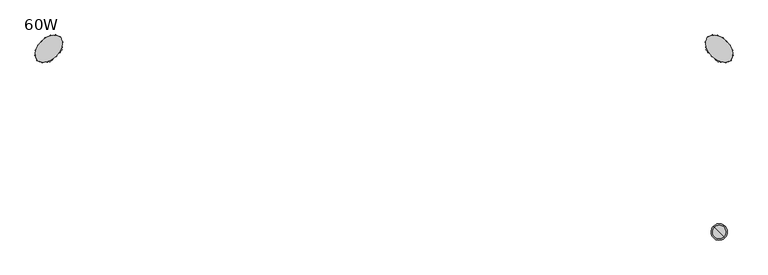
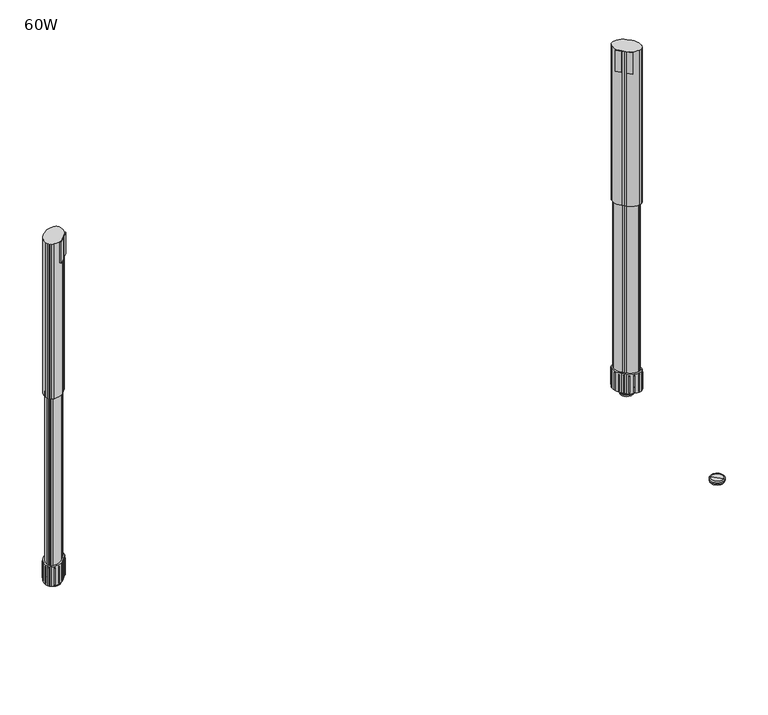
"""IFC4 building model written with IfcOpenShell, lengths in millimetres: furniture geometry, SmithSystem_AM_Table_Education_Interchange_Activity_20D : 60W."""

from ifc_helpers import new_model, si_unit, point, frame, frame_2d, origin, origin_with_axes, place, context, project, spatial, polyline, circle_curve, ellipse_curve, trimmed, segment, composite_curve, outline, extrude, source, transform, mapped, element, save
from ifc_brep_helpers import plane_surface, cylinder_surface, revolved_surface, advanced_brep


def furniture_60w_86c895c0(model_context):
    return source(origin(), model_context, "Body", "SolidModel", [
        advanced_brep(
        [(1482.7381508, 458.8668163, 4.0499223), (1461.8815501, 438.0102156, 4.0499223), (1472.3098504, 448.4385159, 4.0499223), (1484.534202, 460.6628675, 6.5899223), (1460.0854989, 436.2141644, 6.5899223), (1484.534202, 460.6628675, 10.1679691), (1460.0854989, 436.2141644, 10.1679691), (1482.7381508, 458.8668163, 12.7079691), (1461.8815501, 438.0102156, 12.7079691), (1472.3098504, 448.4385159, 12.7079691)],
        [
            (0, 1, circle_curve(frame((1472.3098504, 448.4385159, 4.0499223), z_axis=(0.0, 0.0, -1.0), x_axis=(-0.7071067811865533, -0.7071067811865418, 0.0)), 14.7478438)),
            (1, 2),
            (2, 0),
            (1, 0, circle_curve(frame((1472.3098504, 448.4385159, 4.0499223), z_axis=(0.0, 0.0, -1.0), x_axis=(-0.7071067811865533, -0.7071067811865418, 0.0)), 14.7478438)),
            (3, 4, circle_curve(frame((1472.3098504, 448.4385159, 6.5899223), z_axis=(0.0, 0.0, -1.0), x_axis=(-0.7071067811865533, -0.7071067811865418, 0.0)), 17.2878438)),
            (4, 1, circle_curve(frame((1461.8815501, 438.0102156, 6.5899223), z_axis=(0.7071067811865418, -0.7071067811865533, 0.0), x_axis=(-0.7071067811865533, -0.7071067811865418, 0.0)), 2.54)),
            (0, 3, circle_curve(frame((1482.7381508, 458.8668163, 6.5899223), z_axis=(0.7071067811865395, -0.7071067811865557, 0.0), x_axis=(0.7071067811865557, 0.7071067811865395, 0.0)), 2.54)),
            (4, 3, circle_curve(frame((1472.3098504, 448.4385159, 6.5899223), z_axis=(0.0, 0.0, -1.0), x_axis=(-0.7071067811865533, -0.7071067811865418, 0.0)), 17.2878438)),
            (5, 6, circle_curve(frame((1472.3098504, 448.4385159, 10.1679691), z_axis=(0.0, 0.0, -1.0), x_axis=(-0.7071067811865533, -0.7071067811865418, 0.0)), 17.2878438)),
            (6, 4),
            (3, 5),
            (6, 5, circle_curve(frame((1472.3098504, 448.4385159, 10.1679691), z_axis=(0.0, 0.0, -1.0), x_axis=(-0.7071067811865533, -0.7071067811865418, 0.0)), 17.2878438)),
            (7, 8, circle_curve(frame((1472.3098504, 448.4385159, 12.7079691), z_axis=(0.0, 0.0, -1.0), x_axis=(-0.7071067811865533, -0.7071067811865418, 0.0)), 14.7478438)),
            (8, 6, circle_curve(frame((1461.8815501, 438.0102156, 10.1679691), z_axis=(0.7071067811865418, -0.7071067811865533, 0.0), x_axis=(-0.7071067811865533, -0.7071067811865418, 0.0)), 2.54)),
            (5, 7, circle_curve(frame((1482.7381508, 458.8668163, 10.1679691), z_axis=(0.7071067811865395, -0.7071067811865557, 0.0), x_axis=(0.7071067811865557, 0.7071067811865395, 0.0)), 2.54)),
            (8, 7, circle_curve(frame((1472.3098504, 448.4385159, 12.7079691), z_axis=(0.0, 0.0, -1.0), x_axis=(-0.7071067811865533, -0.7071067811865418, 0.0)), 14.7478438)),
            (9, 8),
            (7, 9),
        ],
        [
            plane_surface(frame((1472.3098504, 448.4385159, 4.0499223), z_axis=(0.0, 0.0, -1.0), x_axis=(-0.7071067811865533, -0.7071067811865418, 0.0))),
            revolved_surface(trimmed(ellipse_curve(frame((1461.8815501, 438.0102156, 6.5899223), z_axis=(-0.7071067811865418, 0.7071067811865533, 0.0), x_axis=(-0.7071067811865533, -0.7071067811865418, 0.0)), 2.54, 2.54), [point((1461.8815501, 438.0102156, 4.0499223))], [point((1460.0854989, 436.2141644, 6.5899223))], True, "CARTESIAN"), (1472.3098504, 448.4385159, 3.1355675), (0.0, 0.0, 1.0)),
            cylinder_surface(frame((1472.3098504, 448.4385159, 3.1355675), z_axis=(0.0, 0.0, 1.0), x_axis=(-0.7071067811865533, -0.7071067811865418, 0.0)), 17.2878438),
            revolved_surface(trimmed(ellipse_curve(frame((1461.8815501, 438.0102156, 10.1679691), z_axis=(-0.7071067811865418, 0.7071067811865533, 0.0), x_axis=(-0.7071067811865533, -0.7071067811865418, 0.0)), 2.54, 2.54), [point((1460.0854989, 436.2141644, 10.1679691))], [point((1461.8815501, 438.0102156, 12.7079691))], True, "CARTESIAN"), (1472.3098504, 448.4385159, 3.1355675), (0.0, 0.0, 1.0)),
            plane_surface(frame((1472.3098504, 448.4385159, 12.7079691), z_axis=(0.0, 0.0, 1.0), x_axis=(-0.7071067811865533, -0.7071067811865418, 0.0))),
        ],
        [
            (0, [[1, 2, 3]]),
            (0, [[4, -3, -2]]),
            (1, [[5, 6, -1, 7]]),
            (1, [[8, -7, -4, -6]]),
            (2, [[9, 10, -5, 11]]),
            (2, [[12, -11, -8, -10]]),
            (3, [[13, 14, -9, 15]]),
            (3, [[16, -15, -12, -14]]),
            (4, [[17, -13, 18]]),
            (4, [[-18, -16, -17]]),
        ],
    ),
        extrude(outline(composite_curve([segment(trimmed(circle_curve(frame_2d((1476.4964298, 459.8093002)), 32.5855406), [point((1453.4549731, 436.7678435))], [point((1444.1537769, 463.7804787))], False, "CARTESIAN"), True, "CONTINUOUS"), segment(trimmed(circle_curve(frame_2d((1463.6817209, 461.3827486)), 19.6745954), [point((1444.1537769, 463.7804787))], [point((1445.5137305, 468.9334989))], False, "CARTESIAN"), True, "CONTINUOUS"), segment(trimmed(circle_curve(frame_2d((1453.7793536, 465.4982452)), 8.9510611), [point((1445.5137305, 468.9334989))], [point((1447.4499976, 471.8276012))], False, "CARTESIAN"), True, "CONTINUOUS"), segment(polyline([(1447.4499976, 471.8276012), (1448.1853814, 472.5629849), (1448.9207652, 473.2983687)]), True, "CONTINUOUS"), segment(trimmed(circle_curve(frame_2d((1455.2501212, 466.9690127)), 8.9510611), [point((1448.9207652, 473.2983687))], [point((1451.8148675, 475.2346359))], False, "CARTESIAN"), True, "CONTINUOUS"), segment(trimmed(circle_curve(frame_2d((1459.3656177, 457.0666455)), 19.6745954), [point((1451.8148675, 475.2346359))], [point((1456.9678877, 476.5945895))], False, "CARTESIAN"), True, "CONTINUOUS"), segment(trimmed(circle_curve(frame_2d((1460.9390661, 444.2519365)), 32.5855406), [point((1456.9678877, 476.5945895))], [point((1483.9805229, 467.2933933))], False, "CARTESIAN"), True, "CONTINUOUS"), segment(polyline([(1483.9805229, 467.2933933), (1487.5726253, 463.7012908), (1491.1647278, 460.1091884)]), True, "CONTINUOUS"), segment(trimmed(circle_curve(frame_2d((1468.123271, 437.0677316)), 32.5855406), [point((1491.1647278, 460.1091884))], [point((1500.465924, 433.0965532))], False, "CARTESIAN"), True, "CONTINUOUS"), segment(trimmed(circle_curve(frame_2d((1480.93798, 435.4942832)), 19.6745954), [point((1500.465924, 433.0965532))], [point((1499.1059704, 427.943533))], False, "CARTESIAN"), True, "CONTINUOUS"), segment(trimmed(circle_curve(frame_2d((1490.8403472, 431.3787867)), 8.9510611), [point((1499.1059704, 427.943533))], [point((1497.1697032, 425.0494307))], False, "CARTESIAN"), True, "CONTINUOUS"), segment(polyline([(1497.1697032, 425.0494307), (1496.4343195, 424.3140469), (1495.6989357, 423.5786631)]), True, "CONTINUOUS"), segment(trimmed(circle_curve(frame_2d((1489.3695797, 429.9080191)), 8.9510611), [point((1495.6989357, 423.5786631))], [point((1492.8048334, 421.6423959))], False, "CARTESIAN"), True, "CONTINUOUS"), segment(trimmed(circle_curve(frame_2d((1485.2540831, 439.8103864)), 19.6745954), [point((1492.8048334, 421.6423959))], [point((1487.6518132, 420.2824424))], False, "CARTESIAN"), True, "CONTINUOUS"), segment(trimmed(circle_curve(frame_2d((1483.6806347, 452.6250953)), 32.5855406), [point((1487.6518132, 420.2824424))], [point((1460.639178, 429.5836386))], False, "CARTESIAN"), True, "CONTINUOUS"), segment(polyline([(1460.639178, 429.5836386), (1457.0470756, 433.175741), (1453.4549731, 436.7678435)]), True, "CONTINUOUS")], self_intersect=False)), frame((0.0, 0.0, 12.7079691), z_axis=(0.0, 0.0, 1.0), x_axis=(1.0, 0.0, 0.0)), (0.0, 0.0, 1.0), 50.791766),
        extrude(outline(composite_curve([segment(trimmed(circle_curve(frame_2d((1472.3098504, 448.4385159)), 15.24), [point((1483.0861578, 437.6622086))], [point((1461.5335431, 459.2148233))], False, "CARTESIAN"), True, "CONTINUOUS"), segment(trimmed(circle_curve(frame_2d((1472.3098504, 448.4385159)), 15.24), [point((1461.5335431, 459.2148233))], [point((1483.0861578, 437.6622086))], False, "CARTESIAN"), True, "CONTINUOUS")], self_intersect=False)), origin_with_axes(), (0.0, 0.0, 1.0), 4.0499223),
        extrude(outline(composite_curve([segment(polyline([(1488.4706509, 462.8032652), (1487.5726253, 463.7012908), (1486.6745997, 464.5993164)]), True, "CONTINUOUS"), segment(trimmed(circle_curve(frame_2d((1487.5726253, 463.7012908)), 1.27), [point((1486.6745997, 464.5993164))], [point((1488.4706509, 462.8032652))], False, "CARTESIAN"), True, "CONTINUOUS")], self_intersect=False)), frame((0.0, 0.0, 16.2275456), z_axis=(0.0, 0.0, 1.0), x_axis=(1.0, 0.0, 0.0)), (0.0, 0.0, 1.0), 43.7457423),
        extrude(outline(composite_curve([segment(polyline([(1495.5099845, 423.4423306), (1496.4080101, 424.3403563), (1497.3060357, 425.2383819)]), True, "CONTINUOUS"), segment(trimmed(circle_curve(frame_2d((1496.4080101, 424.3403563)), 1.27), [point((1497.3060357, 425.2383819))], [point((1495.5099845, 423.4423306))], False, "CARTESIAN"), True, "CONTINUOUS")], self_intersect=False)), frame((0.0, 0.0, 16.2275456), z_axis=(0.0, 0.0, 1.0), x_axis=(1.0, 0.0, 0.0)), (0.0, 0.0, 1.0), 43.7457423),
        extrude(outline(composite_curve([segment(trimmed(circle_curve(frame_2d((1448.2116908, 472.5366756)), 1.27), [point((1447.3136652, 471.63865))], [point((1449.1097164, 473.4347012))], False, "CARTESIAN"), True, "CONTINUOUS"), segment(polyline([(1449.1097164, 473.4347012), (1448.2116908, 472.5366756), (1447.3136652, 471.63865)]), True, "CONTINUOUS")], self_intersect=False)), frame((0.0, 0.0, 16.2275456), z_axis=(0.0, 0.0, 1.0), x_axis=(1.0, 0.0, 0.0)), (0.0, 0.0, 1.0), 43.7457423),
        extrude(outline(composite_curve([segment(trimmed(circle_curve(frame_2d((1458.0779787, 476.6574596)), 1.27), [point((1456.8120338, 476.5560515))], [point((1459.3439236, 476.7588676))], False, "CARTESIAN"), True, "CONTINUOUS"), segment(polyline([(1459.3439236, 476.7588676), (1458.0779787, 476.6574596), (1456.8120338, 476.5560515)]), True, "CONTINUOUS")], self_intersect=False)), frame((0.0, 0.0, 16.2275456), z_axis=(0.0, 0.0, 1.0), x_axis=(1.0, 0.0, 0.0)), (0.0, 0.0, 1.0), 43.7457423),
        extrude(outline(composite_curve([segment(trimmed(circle_curve(frame_2d((1469.1209477, 475.7234059)), 1.27), [point((1467.8909581, 476.039674))], [point((1470.3509373, 475.4071377))], False, "CARTESIAN"), True, "CONTINUOUS"), segment(polyline([(1470.3509373, 475.4071377), (1469.1209477, 475.7234059), (1467.8909581, 476.039674)]), True, "CONTINUOUS")], self_intersect=False)), frame((0.0, 0.0, 16.2275456), z_axis=(0.0, 0.0, 1.0), x_axis=(1.0, 0.0, 0.0)), (0.0, 0.0, 1.0), 43.7457423),
        extrude(outline(composite_curve([segment(trimmed(circle_curve(frame_2d((1479.2770478, 471.1239568)), 1.27), [point((1478.2294057, 471.8418329))], [point((1480.3246899, 470.4060807))], False, "CARTESIAN"), True, "CONTINUOUS"), segment(polyline([(1480.3246899, 470.4060807), (1479.2770478, 471.1239568), (1478.2294057, 471.8418329)]), True, "CONTINUOUS")], self_intersect=False)), frame((0.0, 0.0, 16.2275456), z_axis=(0.0, 0.0, 1.0), x_axis=(1.0, 0.0, 0.0)), (0.0, 0.0, 1.0), 43.7457423),
        extrude(outline(composite_curve([segment(polyline([(1500.427386, 432.9406993), (1500.5287941, 434.2066442), (1500.6302021, 435.4725891)]), True, "CONTINUOUS"), segment(trimmed(circle_curve(frame_2d((1500.5287941, 434.2066442)), 1.27), [point((1500.6302021, 435.4725891))], [point((1500.427386, 432.9406993))], False, "CARTESIAN"), True, "CONTINUOUS")], self_intersect=False)), frame((0.0, 0.0, 16.2275456), z_axis=(0.0, 0.0, 1.0), x_axis=(1.0, 0.0, 0.0)), (0.0, 0.0, 1.0), 43.7457423),
        extrude(outline(composite_curve([segment(polyline([(1499.9110085, 444.0196236), (1499.5947404, 445.2496132), (1499.2784722, 446.4796028)]), True, "CONTINUOUS"), segment(trimmed(circle_curve(frame_2d((1499.5947404, 445.2496132)), 1.27), [point((1499.2784722, 446.4796028))], [point((1499.9110085, 444.0196236))], False, "CARTESIAN"), True, "CONTINUOUS")], self_intersect=False)), frame((0.0, 0.0, 16.2275456), z_axis=(0.0, 0.0, 1.0), x_axis=(1.0, 0.0, 0.0)), (0.0, 0.0, 1.0), 43.7457423),
        extrude(outline(composite_curve([segment(polyline([(1495.7131674, 454.3580712), (1494.9952913, 455.4057133), (1494.2774152, 456.4533554)]), True, "CONTINUOUS"), segment(trimmed(circle_curve(frame_2d((1494.9952913, 455.4057133)), 1.27), [point((1494.2774152, 456.4533554))], [point((1495.7131674, 454.3580712))], False, "CARTESIAN"), True, "CONTINUOUS")], self_intersect=False)), frame((0.0, 0.0, 16.2275456), z_axis=(0.0, 0.0, 1.0), x_axis=(1.0, 0.0, 0.0)), (0.0, 0.0, 1.0), 43.7457423),
        extrude(outline(composite_curve([segment(trimmed(circle_curve(frame_2d((1457.0470756, 433.175741)), 1.27), [point((1457.9451012, 432.2777154))], [point((1456.1490499, 434.0737667))], False, "CARTESIAN"), True, "CONTINUOUS"), segment(polyline([(1456.1490499, 434.0737667), (1457.0470756, 433.175741), (1457.9451012, 432.2777154)]), True, "CONTINUOUS")], self_intersect=False)), frame((0.0, 0.0, 16.2275456), z_axis=(0.0, 0.0, 1.0), x_axis=(1.0, 0.0, 0.0)), (0.0, 0.0, 1.0), 43.7457423),
        extrude(outline(composite_curve([segment(polyline([(1444.1923149, 463.9363325), (1444.0909068, 462.6703877), (1443.9894988, 461.4044428)]), True, "CONTINUOUS"), segment(trimmed(circle_curve(frame_2d((1444.0909068, 462.6703877)), 1.27), [point((1443.9894988, 461.4044428))], [point((1444.1923149, 463.9363325))], False, "CARTESIAN"), True, "CONTINUOUS")], self_intersect=False)), frame((0.0, 0.0, 16.2275456), z_axis=(0.0, 0.0, 1.0), x_axis=(1.0, 0.0, 0.0)), (0.0, 0.0, 1.0), 43.7457423),
        extrude(outline(composite_curve([segment(polyline([(1444.7086924, 452.8574083), (1445.0249605, 451.6274187), (1445.3412287, 450.397429)]), True, "CONTINUOUS"), segment(trimmed(circle_curve(frame_2d((1445.0249605, 451.6274187)), 1.27), [point((1445.3412287, 450.397429))], [point((1444.7086924, 452.8574083))], False, "CARTESIAN"), True, "CONTINUOUS")], self_intersect=False)), frame((0.0, 0.0, 16.2275456), z_axis=(0.0, 0.0, 1.0), x_axis=(1.0, 0.0, 0.0)), (0.0, 0.0, 1.0), 43.7457423),
        extrude(outline(composite_curve([segment(polyline([(1448.9065335, 442.5189606), (1449.6244096, 441.4713185), (1450.3422857, 440.4236765)]), True, "CONTINUOUS"), segment(trimmed(circle_curve(frame_2d((1449.6244096, 441.4713185)), 1.27), [point((1450.3422857, 440.4236765))], [point((1448.9065335, 442.5189606))], False, "CARTESIAN"), True, "CONTINUOUS")], self_intersect=False)), frame((0.0, 0.0, 16.2275456), z_axis=(0.0, 0.0, 1.0), x_axis=(1.0, 0.0, 0.0)), (0.0, 0.0, 1.0), 43.7457423),
        extrude(outline(composite_curve([segment(trimmed(circle_curve(frame_2d((1486.5417222, 420.2195723)), 1.27), [point((1487.807667, 420.3209803))], [point((1485.2757773, 420.1181643))], False, "CARTESIAN"), True, "CONTINUOUS"), segment(polyline([(1485.2757773, 420.1181643), (1486.5417222, 420.2195723), (1487.807667, 420.3209803)]), True, "CONTINUOUS")], self_intersect=False)), frame((0.0, 0.0, 16.2275456), z_axis=(0.0, 0.0, 1.0), x_axis=(1.0, 0.0, 0.0)), (0.0, 0.0, 1.0), 43.7457423),
        extrude(outline(composite_curve([segment(trimmed(circle_curve(frame_2d((1475.4987532, 421.153626)), 1.27), [point((1476.7287428, 420.8373578))], [point((1474.2687635, 421.4698941))], False, "CARTESIAN"), True, "CONTINUOUS"), segment(polyline([(1474.2687635, 421.4698941), (1475.4987532, 421.153626), (1476.7287428, 420.8373578)]), True, "CONTINUOUS")], self_intersect=False)), frame((0.0, 0.0, 16.2275456), z_axis=(0.0, 0.0, 1.0), x_axis=(1.0, 0.0, 0.0)), (0.0, 0.0, 1.0), 43.7457423),
        extrude(outline(composite_curve([segment(trimmed(circle_curve(frame_2d((1465.3426531, 425.7530751)), 1.27), [point((1466.3902951, 425.035199))], [point((1464.295011, 426.4709511))], False, "CARTESIAN"), True, "CONTINUOUS"), segment(polyline([(1464.295011, 426.4709511), (1465.3426531, 425.7530751), (1466.3902951, 425.035199)]), True, "CONTINUOUS")], self_intersect=False)), frame((0.0, 0.0, 16.2275456), z_axis=(0.0, 0.0, 1.0), x_axis=(1.0, 0.0, 0.0)), (0.0, 0.0, 1.0), 43.7457423),
        extrude(outline(composite_curve([segment(polyline([(1463.3332548, 432.2777154), (1459.7411524, 435.8698179), (1456.1490499, 439.4619203)]), True, "CONTINUOUS"), segment(trimmed(circle_curve(frame_2d((1476.4964298, 459.8093002)), 28.7755406), [point((1456.1490499, 439.4619203))], [point((1447.9353777, 463.3161565))], False, "CARTESIAN"), True, "CONTINUOUS"), segment(trimmed(circle_curve(frame_2d((1463.6817209, 461.3827486)), 15.8645954), [point((1447.9353777, 463.3161565))], [point((1449.0319753, 467.4712905))], False, "CARTESIAN"), True, "CONTINUOUS"), segment(trimmed(circle_curve(frame_2d((1453.7793536, 465.4982452)), 5.1410611), [point((1449.0319753, 467.4712905))], [point((1450.1440745, 469.1335243))], False, "CARTESIAN"), True, "CONTINUOUS"), segment(polyline([(1450.1440745, 469.1335243), (1450.8794583, 469.8689081), (1451.614842, 470.6042919)]), True, "CONTINUOUS"), segment(trimmed(circle_curve(frame_2d((1455.2501212, 466.9690127)), 5.1410611), [point((1451.614842, 470.6042919))], [point((1453.2770759, 471.7163911))], False, "CARTESIAN"), True, "CONTINUOUS"), segment(trimmed(circle_curve(frame_2d((1459.3656177, 457.0666455)), 15.8645954), [point((1453.2770759, 471.7163911))], [point((1457.4322099, 472.8129886))], False, "CARTESIAN"), True, "CONTINUOUS"), segment(trimmed(circle_curve(frame_2d((1460.9390661, 444.2519365)), 28.7755406), [point((1457.4322099, 472.8129886))], [point((1481.286446, 464.5993164))], False, "CARTESIAN"), True, "CONTINUOUS"), segment(polyline([(1481.286446, 464.5993164), (1484.8785485, 461.007214), (1488.4706509, 457.4151115)]), True, "CONTINUOUS"), segment(trimmed(circle_curve(frame_2d((1468.123271, 437.0677316)), 28.7755406), [point((1488.4706509, 457.4151115))], [point((1496.6843231, 433.5608754))], False, "CARTESIAN"), True, "CONTINUOUS"), segment(trimmed(circle_curve(frame_2d((1480.93798, 435.4942832)), 15.8645954), [point((1496.6843231, 433.5608754))], [point((1495.5877256, 429.4057414))], False, "CARTESIAN"), True, "CONTINUOUS"), segment(trimmed(circle_curve(frame_2d((1490.8403472, 431.3787867)), 5.1410611), [point((1495.5877256, 429.4057414))], [point((1494.4756264, 427.7435075))], False, "CARTESIAN"), True, "CONTINUOUS"), segment(polyline([(1494.4756264, 427.7435075), (1493.7402426, 427.0081238), (1493.0048588, 426.27274)]), True, "CONTINUOUS"), segment(trimmed(circle_curve(frame_2d((1489.3695797, 429.9080191)), 5.1410611), [point((1493.0048588, 426.27274))], [point((1491.342625, 425.1606408))], False, "CARTESIAN"), True, "CONTINUOUS"), segment(trimmed(circle_curve(frame_2d((1485.2540831, 439.8103864)), 15.8645954), [point((1491.342625, 425.1606408))], [point((1487.187491, 424.0640432))], False, "CARTESIAN"), True, "CONTINUOUS"), segment(trimmed(circle_curve(frame_2d((1483.6806347, 452.6250953)), 28.7755406), [point((1487.187491, 424.0640432))], [point((1463.3332548, 432.2777154))], False, "CARTESIAN"), True, "CONTINUOUS")], self_intersect=False)), frame((0.0, 0.0, 63.4997351), z_axis=(0.0, 0.0, 1.0), x_axis=(1.0, 0.0, 0.0)), (0.0, 0.0, 1.0), 440.4486802),
        extrude(outline(composite_curve([segment(polyline([(1483.9805229, 467.2933933), (1487.5726253, 463.7012908), (1491.1647278, 460.1091884)]), True, "CONTINUOUS"), segment(trimmed(circle_curve(frame_2d((1468.123271, 437.0677316)), 32.5855406), [point((1491.1647278, 460.1091884))], [point((1500.465924, 433.0965532))], False, "CARTESIAN"), True, "CONTINUOUS"), segment(trimmed(circle_curve(frame_2d((1480.93798, 435.4942832)), 19.6745954), [point((1500.465924, 433.0965532))], [point((1499.1059704, 427.943533))], False, "CARTESIAN"), True, "CONTINUOUS"), segment(trimmed(circle_curve(frame_2d((1490.8403472, 431.3787867)), 8.9510611), [point((1499.1059704, 427.943533))], [point((1497.1697032, 425.0494307))], False, "CARTESIAN"), True, "CONTINUOUS"), segment(polyline([(1497.1697032, 425.0494307), (1496.4343195, 424.3140469), (1495.6989357, 423.5786631)]), True, "CONTINUOUS"), segment(trimmed(circle_curve(frame_2d((1489.3695797, 429.9080191)), 8.9510611), [point((1495.6989357, 423.5786631))], [point((1492.8048334, 421.6423959))], False, "CARTESIAN"), True, "CONTINUOUS"), segment(trimmed(circle_curve(frame_2d((1485.2540831, 439.8103864)), 19.6745954), [point((1492.8048334, 421.6423959))], [point((1487.6518132, 420.2824424))], False, "CARTESIAN"), True, "CONTINUOUS"), segment(trimmed(circle_curve(frame_2d((1483.6806347, 452.6250953)), 32.5855406), [point((1487.6518132, 420.2824424))], [point((1460.639178, 429.5836386))], False, "CARTESIAN"), True, "CONTINUOUS"), segment(polyline([(1460.639178, 429.5836386), (1457.0470756, 433.175741), (1453.4549731, 436.7678435)]), True, "CONTINUOUS"), segment(trimmed(circle_curve(frame_2d((1476.4964298, 459.8093002)), 32.5855406), [point((1453.4549731, 436.7678435))], [point((1444.1537769, 463.7804787))], False, "CARTESIAN"), True, "CONTINUOUS"), segment(trimmed(circle_curve(frame_2d((1463.6817209, 461.3827486)), 19.6745954), [point((1444.1537769, 463.7804787))], [point((1445.5137305, 468.9334989))], False, "CARTESIAN"), True, "CONTINUOUS"), segment(trimmed(circle_curve(frame_2d((1453.7793536, 465.4982452)), 8.9510611), [point((1445.5137305, 468.9334989))], [point((1447.4499976, 471.8276012))], False, "CARTESIAN"), True, "CONTINUOUS"), segment(polyline([(1447.4499976, 471.8276012), (1448.1853814, 472.5629849), (1448.9207652, 473.2983687)]), True, "CONTINUOUS"), segment(trimmed(circle_curve(frame_2d((1455.2501212, 466.9690127)), 8.9510611), [point((1448.9207652, 473.2983687))], [point((1451.8148675, 475.2346359))], False, "CARTESIAN"), True, "CONTINUOUS"), segment(trimmed(circle_curve(frame_2d((1459.3656177, 457.0666455)), 19.6745954), [point((1451.8148675, 475.2346359))], [point((1456.9678877, 476.5945895))], False, "CARTESIAN"), True, "CONTINUOUS"), segment(trimmed(circle_curve(frame_2d((1460.9390661, 444.2519365)), 32.5855406), [point((1456.9678877, 476.5945895))], [point((1483.9805229, 467.2933933))], False, "CARTESIAN"), True, "CONTINUOUS")], self_intersect=False)), frame((0.0, 0.0, 503.9484153), z_axis=(0.0, 0.0, 1.0), x_axis=(1.0, 0.0, 0.0)), (0.0, 0.0, 1.0), 405.2764888),
        extrude(outline(polyline([(1473.606676, 422.8390473), (1470.2618157, 419.4941871), (1443.4201876, 446.3358152), (1446.7650478, 449.6806755), (1473.606676, 422.8390473)])), frame((0.0, 0.0, 853.198382), z_axis=(0.0, 0.0, 1.0), x_axis=(1.0, 0.0, 0.0)), (0.0, 0.0, 1.0), 56.0265221),
        advanced_brep(
        [(40.9483, 458.8668163, 4.0499223), (51.3766004, 448.4385159, 4.0499223), (61.8049007, 438.0102156, 4.0499223), (39.1522488, 460.6628675, 6.5899223), (63.6009519, 436.2141644, 6.5899223), (39.1522488, 460.6628675, 10.1679691), (63.6009519, 436.2141644, 10.1679691), (40.9483, 458.8668163, 12.7079691), (61.8049007, 438.0102156, 12.7079691), (51.3766004, 448.4385159, 12.7079691)],
        [
            (0, 1),
            (1, 2),
            (2, 0, circle_curve(frame((51.3766004, 448.4385159, 4.0499223), z_axis=(0.0, 0.0, -1.0), x_axis=(0.7071067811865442, -0.7071067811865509, 0.0)), 14.7478438)),
            (0, 2, circle_curve(frame((51.3766004, 448.4385159, 4.0499223), z_axis=(0.0, 0.0, -1.0), x_axis=(0.7071067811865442, -0.7071067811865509, 0.0)), 14.7478438)),
            (3, 0, circle_curve(frame((40.9483, 458.8668163, 6.5899223), z_axis=(-0.7071067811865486, -0.7071067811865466, 0.0), x_axis=(-0.7071067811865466, 0.7071067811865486, 0.0)), 2.54)),
            (2, 4, circle_curve(frame((61.8049007, 438.0102156, 6.5899223), z_axis=(-0.7071067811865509, -0.7071067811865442, 0.0), x_axis=(0.7071067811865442, -0.7071067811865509, 0.0)), 2.54)),
            (4, 3, circle_curve(frame((51.3766004, 448.4385159, 6.5899223), z_axis=(0.0, 0.0, -1.0), x_axis=(0.7071067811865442, -0.7071067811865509, 0.0)), 17.2878438)),
            (3, 4, circle_curve(frame((51.3766004, 448.4385159, 6.5899223), z_axis=(0.0, 0.0, -1.0), x_axis=(0.7071067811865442, -0.7071067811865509, 0.0)), 17.2878438)),
            (5, 3),
            (4, 6),
            (6, 5, circle_curve(frame((51.3766004, 448.4385159, 10.1679691), z_axis=(0.0, 0.0, -1.0), x_axis=(0.7071067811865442, -0.7071067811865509, 0.0)), 17.2878438)),
            (5, 6, circle_curve(frame((51.3766004, 448.4385159, 10.1679691), z_axis=(0.0, 0.0, -1.0), x_axis=(0.7071067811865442, -0.7071067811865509, 0.0)), 17.2878438)),
            (7, 5, circle_curve(frame((40.9483, 458.8668163, 10.1679691), z_axis=(-0.7071067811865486, -0.7071067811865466, 0.0), x_axis=(-0.7071067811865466, 0.7071067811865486, 0.0)), 2.54)),
            (6, 8, circle_curve(frame((61.8049007, 438.0102156, 10.1679691), z_axis=(-0.7071067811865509, -0.7071067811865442, 0.0), x_axis=(0.7071067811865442, -0.7071067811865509, 0.0)), 2.54)),
            (8, 7, circle_curve(frame((51.3766004, 448.4385159, 12.7079691), z_axis=(0.0, 0.0, -1.0), x_axis=(0.7071067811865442, -0.7071067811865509, 0.0)), 14.7478438)),
            (7, 8, circle_curve(frame((51.3766004, 448.4385159, 12.7079691), z_axis=(0.0, 0.0, -1.0), x_axis=(0.7071067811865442, -0.7071067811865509, 0.0)), 14.7478438)),
            (9, 7),
            (8, 9),
        ],
        [
            plane_surface(frame((51.3766004, 448.4385159, 4.0499223), z_axis=(0.0, 0.0, -1.0), x_axis=(0.7071067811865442, -0.7071067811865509, 0.0))),
            revolved_surface(trimmed(ellipse_curve(frame((61.8049007, 438.0102156, 6.5899223), z_axis=(-0.7071067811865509, -0.7071067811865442, 0.0), x_axis=(0.7071067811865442, -0.7071067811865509, 0.0)), 2.54, 2.54), [point((61.8049007, 438.0102156, 4.0499223))], [point((63.6009519, 436.2141644, 6.5899223))], True, "CARTESIAN"), (51.3766004, 448.4385159, 3.1355675), (0.0, 0.0, 1.0)),
            cylinder_surface(frame((51.3766004, 448.4385159, 3.1355675), z_axis=(0.0, 0.0, 1.0), x_axis=(0.7071067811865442, -0.7071067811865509, 0.0)), 17.2878438),
            revolved_surface(trimmed(ellipse_curve(frame((61.8049007, 438.0102156, 10.1679691), z_axis=(-0.7071067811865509, -0.7071067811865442, 0.0), x_axis=(0.7071067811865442, -0.7071067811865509, 0.0)), 2.54, 2.54), [point((63.6009519, 436.2141644, 10.1679691))], [point((61.8049007, 438.0102156, 12.7079691))], True, "CARTESIAN"), (51.3766004, 448.4385159, 3.1355675), (0.0, 0.0, 1.0)),
            plane_surface(frame((51.3766004, 448.4385159, 12.7079691), z_axis=(0.0, 0.0, 1.0), x_axis=(0.7071067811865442, -0.7071067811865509, 0.0))),
        ],
        [
            (0, [[1, 2, 3]]),
            (0, [[-2, -1, 4]]),
            (1, [[5, -3, 6, 7]]),
            (1, [[-6, -4, -5, 8]]),
            (2, [[9, -7, 10, 11]]),
            (2, [[-10, -8, -9, 12]]),
            (3, [[13, -11, 14, 15]]),
            (3, [[-14, -12, -13, 16]]),
            (4, [[17, -15, 18]]),
            (4, [[-18, -16, -17]]),
        ],
    ),
        extrude(outline(composite_curve([segment(polyline([(70.2314777, 436.7678435), (66.6393752, 433.175741), (63.0472728, 429.5836386)]), True, "CONTINUOUS"), segment(trimmed(circle_curve(frame_2d((40.0058161, 452.6250953)), 32.5855406), [point((63.0472728, 429.5836386))], [point((36.0346376, 420.2824424))], False, "CARTESIAN"), True, "CONTINUOUS"), segment(trimmed(circle_curve(frame_2d((38.4323677, 439.8103864)), 19.6745954), [point((36.0346376, 420.2824424))], [point((30.8816174, 421.6423959))], False, "CARTESIAN"), True, "CONTINUOUS"), segment(trimmed(circle_curve(frame_2d((34.3168711, 429.9080191)), 8.9510611), [point((30.8816174, 421.6423959))], [point((27.9875151, 423.5786631))], False, "CARTESIAN"), True, "CONTINUOUS"), segment(polyline([(27.9875151, 423.5786631), (27.2521313, 424.3140469), (26.5167476, 425.0494307)]), True, "CONTINUOUS"), segment(trimmed(circle_curve(frame_2d((32.8461036, 431.3787867)), 8.9510611), [point((26.5167476, 425.0494307))], [point((24.5804804, 427.943533))], False, "CARTESIAN"), True, "CONTINUOUS"), segment(trimmed(circle_curve(frame_2d((42.7484708, 435.4942832)), 19.6745954), [point((24.5804804, 427.943533))], [point((23.2205268, 433.0965532))], False, "CARTESIAN"), True, "CONTINUOUS"), segment(trimmed(circle_curve(frame_2d((55.5631798, 437.0677316)), 32.5855406), [point((23.2205268, 433.0965532))], [point((32.521723, 460.1091884))], False, "CARTESIAN"), True, "CONTINUOUS"), segment(polyline([(32.521723, 460.1091884), (36.1138255, 463.7012908), (39.7059279, 467.2933933)]), True, "CONTINUOUS"), segment(trimmed(circle_curve(frame_2d((62.7473847, 444.2519365)), 32.5855406), [point((39.7059279, 467.2933933))], [point((66.7185631, 476.5945895))], False, "CARTESIAN"), True, "CONTINUOUS"), segment(trimmed(circle_curve(frame_2d((64.3208331, 457.0666455)), 19.6745954), [point((66.7185631, 476.5945895))], [point((71.8715833, 475.2346359))], False, "CARTESIAN"), True, "CONTINUOUS"), segment(trimmed(circle_curve(frame_2d((68.4363296, 466.9690127)), 8.9510611), [point((71.8715833, 475.2346359))], [point((74.7656856, 473.2983687))], False, "CARTESIAN"), True, "CONTINUOUS"), segment(polyline([(74.7656856, 473.2983687), (75.5010694, 472.5629849), (76.2364532, 471.8276012)]), True, "CONTINUOUS"), segment(trimmed(circle_curve(frame_2d((69.9070972, 465.4982452)), 8.9510611), [point((76.2364532, 471.8276012))], [point((78.1727203, 468.9334989))], False, "CARTESIAN"), True, "CONTINUOUS"), segment(trimmed(circle_curve(frame_2d((60.0047299, 461.3827486)), 19.6745954), [point((78.1727203, 468.9334989))], [point((79.5326739, 463.7804787))], False, "CARTESIAN"), True, "CONTINUOUS"), segment(trimmed(circle_curve(frame_2d((47.190021, 459.8093002)), 32.5855406), [point((79.5326739, 463.7804787))], [point((70.2314777, 436.7678435))], False, "CARTESIAN"), True, "CONTINUOUS")], self_intersect=False)), frame((0.0, 0.0, 12.7079691), z_axis=(0.0, 0.0, 1.0), x_axis=(1.0, 0.0, 0.0)), (0.0, 0.0, 1.0), 50.791766),
        extrude(outline(composite_curve([segment(trimmed(circle_curve(frame_2d((51.3766004, 448.4385159)), 15.24), [point((40.600293, 437.6622086))], [point((62.1529077, 459.2148233))], False, "CARTESIAN"), True, "CONTINUOUS"), segment(trimmed(circle_curve(frame_2d((51.3766004, 448.4385159)), 15.24), [point((62.1529077, 459.2148233))], [point((40.600293, 437.6622086))], False, "CARTESIAN"), True, "CONTINUOUS")], self_intersect=False)), origin_with_axes(), (0.0, 0.0, 1.0), 4.0499223),
        extrude(outline(composite_curve([segment(trimmed(circle_curve(frame_2d((36.1138255, 463.7012908)), 1.27), [point((35.2157999, 462.8032652))], [point((37.0118511, 464.5993164))], False, "CARTESIAN"), True, "CONTINUOUS"), segment(polyline([(37.0118511, 464.5993164), (36.1138255, 463.7012908), (35.2157999, 462.8032652)]), True, "CONTINUOUS")], self_intersect=False)), frame((0.0, 0.0, 16.2275456), z_axis=(0.0, 0.0, 1.0), x_axis=(1.0, 0.0, 0.0)), (0.0, 0.0, 1.0), 43.7457423),
        extrude(outline(composite_curve([segment(trimmed(circle_curve(frame_2d((27.2784407, 424.3403563)), 1.27), [point((28.1764663, 423.4423306))], [point((26.3804151, 425.2383819))], False, "CARTESIAN"), True, "CONTINUOUS"), segment(polyline([(26.3804151, 425.2383819), (27.2784407, 424.3403563), (28.1764663, 423.4423306)]), True, "CONTINUOUS")], self_intersect=False)), frame((0.0, 0.0, 16.2275456), z_axis=(0.0, 0.0, 1.0), x_axis=(1.0, 0.0, 0.0)), (0.0, 0.0, 1.0), 43.7457423),
        extrude(outline(composite_curve([segment(polyline([(76.3727856, 471.63865), (75.47476, 472.5366756), (74.5767344, 473.4347012)]), True, "CONTINUOUS"), segment(trimmed(circle_curve(frame_2d((75.47476, 472.5366756)), 1.27), [point((74.5767344, 473.4347012))], [point((76.3727856, 471.63865))], False, "CARTESIAN"), True, "CONTINUOUS")], self_intersect=False)), frame((0.0, 0.0, 16.2275456), z_axis=(0.0, 0.0, 1.0), x_axis=(1.0, 0.0, 0.0)), (0.0, 0.0, 1.0), 43.7457423),
        extrude(outline(composite_curve([segment(polyline([(66.874417, 476.5560515), (65.6084721, 476.6574596), (64.3425272, 476.7588676)]), True, "CONTINUOUS"), segment(trimmed(circle_curve(frame_2d((65.6084721, 476.6574596)), 1.27), [point((64.3425272, 476.7588676))], [point((66.874417, 476.5560515))], False, "CARTESIAN"), True, "CONTINUOUS")], self_intersect=False)), frame((0.0, 0.0, 16.2275456), z_axis=(0.0, 0.0, 1.0), x_axis=(1.0, 0.0, 0.0)), (0.0, 0.0, 1.0), 43.7457423),
        extrude(outline(composite_curve([segment(polyline([(55.7954927, 476.039674), (54.5655031, 475.7234059), (53.3355135, 475.4071377)]), True, "CONTINUOUS"), segment(trimmed(circle_curve(frame_2d((54.5655031, 475.7234059)), 1.27), [point((53.3355135, 475.4071377))], [point((55.7954927, 476.039674))], False, "CARTESIAN"), True, "CONTINUOUS")], self_intersect=False)), frame((0.0, 0.0, 16.2275456), z_axis=(0.0, 0.0, 1.0), x_axis=(1.0, 0.0, 0.0)), (0.0, 0.0, 1.0), 43.7457423),
        extrude(outline(composite_curve([segment(polyline([(45.4570451, 471.8418329), (44.409403, 471.1239568), (43.3617609, 470.4060807)]), True, "CONTINUOUS"), segment(trimmed(circle_curve(frame_2d((44.409403, 471.1239568)), 1.27), [point((43.3617609, 470.4060807))], [point((45.4570451, 471.8418329))], False, "CARTESIAN"), True, "CONTINUOUS")], self_intersect=False)), frame((0.0, 0.0, 16.2275456), z_axis=(0.0, 0.0, 1.0), x_axis=(1.0, 0.0, 0.0)), (0.0, 0.0, 1.0), 43.7457423),
        extrude(outline(composite_curve([segment(trimmed(circle_curve(frame_2d((23.1576567, 434.2066442)), 1.27), [point((23.2590648, 432.9406993))], [point((23.0562487, 435.4725891))], False, "CARTESIAN"), True, "CONTINUOUS"), segment(polyline([(23.0562487, 435.4725891), (23.1576567, 434.2066442), (23.2590648, 432.9406993)]), True, "CONTINUOUS")], self_intersect=False)), frame((0.0, 0.0, 16.2275456), z_axis=(0.0, 0.0, 1.0), x_axis=(1.0, 0.0, 0.0)), (0.0, 0.0, 1.0), 43.7457423),
        extrude(outline(composite_curve([segment(trimmed(circle_curve(frame_2d((24.0917104, 445.2496132)), 1.27), [point((23.7754423, 444.0196236))], [point((24.4079786, 446.4796028))], False, "CARTESIAN"), True, "CONTINUOUS"), segment(polyline([(24.4079786, 446.4796028), (24.0917104, 445.2496132), (23.7754423, 444.0196236)]), True, "CONTINUOUS")], self_intersect=False)), frame((0.0, 0.0, 16.2275456), z_axis=(0.0, 0.0, 1.0), x_axis=(1.0, 0.0, 0.0)), (0.0, 0.0, 1.0), 43.7457423),
        extrude(outline(composite_curve([segment(trimmed(circle_curve(frame_2d((28.6911595, 455.4057133)), 1.27), [point((27.9732834, 454.3580712))], [point((29.4090356, 456.4533554))], False, "CARTESIAN"), True, "CONTINUOUS"), segment(polyline([(29.4090356, 456.4533554), (28.6911595, 455.4057133), (27.9732834, 454.3580712)]), True, "CONTINUOUS")], self_intersect=False)), frame((0.0, 0.0, 16.2275456), z_axis=(0.0, 0.0, 1.0), x_axis=(1.0, 0.0, 0.0)), (0.0, 0.0, 1.0), 43.7457423),
        extrude(outline(composite_curve([segment(polyline([(65.7413496, 432.2777154), (66.6393752, 433.175741), (67.5374009, 434.0737667)]), True, "CONTINUOUS"), segment(trimmed(circle_curve(frame_2d((66.6393752, 433.175741)), 1.27), [point((67.5374009, 434.0737667))], [point((65.7413496, 432.2777154))], False, "CARTESIAN"), True, "CONTINUOUS")], self_intersect=False)), frame((0.0, 0.0, 16.2275456), z_axis=(0.0, 0.0, 1.0), x_axis=(1.0, 0.0, 0.0)), (0.0, 0.0, 1.0), 43.7457423),
        extrude(outline(composite_curve([segment(trimmed(circle_curve(frame_2d((79.595544, 462.6703877)), 1.27), [point((79.4941359, 463.9363325))], [point((79.696952, 461.4044428))], False, "CARTESIAN"), True, "CONTINUOUS"), segment(polyline([(79.696952, 461.4044428), (79.595544, 462.6703877), (79.4941359, 463.9363325)]), True, "CONTINUOUS")], self_intersect=False)), frame((0.0, 0.0, 16.2275456), z_axis=(0.0, 0.0, 1.0), x_axis=(1.0, 0.0, 0.0)), (0.0, 0.0, 1.0), 43.7457423),
        extrude(outline(composite_curve([segment(trimmed(circle_curve(frame_2d((78.6614903, 451.6274187)), 1.27), [point((78.9777584, 452.8574083))], [point((78.3452221, 450.397429))], False, "CARTESIAN"), True, "CONTINUOUS"), segment(polyline([(78.3452221, 450.397429), (78.6614903, 451.6274187), (78.9777584, 452.8574083)]), True, "CONTINUOUS")], self_intersect=False)), frame((0.0, 0.0, 16.2275456), z_axis=(0.0, 0.0, 1.0), x_axis=(1.0, 0.0, 0.0)), (0.0, 0.0, 1.0), 43.7457423),
        extrude(outline(composite_curve([segment(trimmed(circle_curve(frame_2d((74.0620412, 441.4713185)), 1.27), [point((74.7799173, 442.5189606))], [point((73.3441651, 440.4236765))], False, "CARTESIAN"), True, "CONTINUOUS"), segment(polyline([(73.3441651, 440.4236765), (74.0620412, 441.4713185), (74.7799173, 442.5189606)]), True, "CONTINUOUS")], self_intersect=False)), frame((0.0, 0.0, 16.2275456), z_axis=(0.0, 0.0, 1.0), x_axis=(1.0, 0.0, 0.0)), (0.0, 0.0, 1.0), 43.7457423),
        extrude(outline(composite_curve([segment(polyline([(35.8787838, 420.3209803), (37.1447286, 420.2195723), (38.4106735, 420.1181643)]), True, "CONTINUOUS"), segment(trimmed(circle_curve(frame_2d((37.1447286, 420.2195723)), 1.27), [point((38.4106735, 420.1181643))], [point((35.8787838, 420.3209803))], False, "CARTESIAN"), True, "CONTINUOUS")], self_intersect=False)), frame((0.0, 0.0, 16.2275456), z_axis=(0.0, 0.0, 1.0), x_axis=(1.0, 0.0, 0.0)), (0.0, 0.0, 1.0), 43.7457423),
        extrude(outline(composite_curve([segment(polyline([(46.957708, 420.8373578), (48.1876976, 421.153626), (49.4176872, 421.4698941)]), True, "CONTINUOUS"), segment(trimmed(circle_curve(frame_2d((48.1876976, 421.153626)), 1.27), [point((49.4176872, 421.4698941))], [point((46.957708, 420.8373578))], False, "CARTESIAN"), True, "CONTINUOUS")], self_intersect=False)), frame((0.0, 0.0, 16.2275456), z_axis=(0.0, 0.0, 1.0), x_axis=(1.0, 0.0, 0.0)), (0.0, 0.0, 1.0), 43.7457423),
        extrude(outline(composite_curve([segment(polyline([(57.2961557, 425.035199), (58.3437977, 425.7530751), (59.3914398, 426.4709511)]), True, "CONTINUOUS"), segment(trimmed(circle_curve(frame_2d((58.3437977, 425.7530751)), 1.27), [point((59.3914398, 426.4709511))], [point((57.2961557, 425.035199))], False, "CARTESIAN"), True, "CONTINUOUS")], self_intersect=False)), frame((0.0, 0.0, 16.2275456), z_axis=(0.0, 0.0, 1.0), x_axis=(1.0, 0.0, 0.0)), (0.0, 0.0, 1.0), 43.7457423),
        extrude(outline(composite_curve([segment(trimmed(circle_curve(frame_2d((40.0058161, 452.6250953)), 28.7755406), [point((60.353196, 432.2777154))], [point((36.4989598, 424.0640432))], False, "CARTESIAN"), True, "CONTINUOUS"), segment(trimmed(circle_curve(frame_2d((38.4323677, 439.8103864)), 15.8645954), [point((36.4989598, 424.0640432))], [point((32.3438258, 425.1606408))], False, "CARTESIAN"), True, "CONTINUOUS"), segment(trimmed(circle_curve(frame_2d((34.3168711, 429.9080191)), 5.1410611), [point((32.3438258, 425.1606408))], [point((30.681592, 426.27274))], False, "CARTESIAN"), True, "CONTINUOUS"), segment(polyline([(30.681592, 426.27274), (29.9462082, 427.0081238), (29.2108244, 427.7435075)]), True, "CONTINUOUS"), segment(trimmed(circle_curve(frame_2d((32.8461036, 431.3787867)), 5.1410611), [point((29.2108244, 427.7435075))], [point((28.0987252, 429.4057414))], False, "CARTESIAN"), True, "CONTINUOUS"), segment(trimmed(circle_curve(frame_2d((42.7484708, 435.4942832)), 15.8645954), [point((28.0987252, 429.4057414))], [point((27.0021277, 433.5608754))], False, "CARTESIAN"), True, "CONTINUOUS"), segment(trimmed(circle_curve(frame_2d((55.5631798, 437.0677316)), 28.7755406), [point((27.0021277, 433.5608754))], [point((35.2157999, 457.4151115))], False, "CARTESIAN"), True, "CONTINUOUS"), segment(polyline([(35.2157999, 457.4151115), (38.8079023, 461.007214), (42.4000048, 464.5993164)]), True, "CONTINUOUS"), segment(trimmed(circle_curve(frame_2d((62.7473847, 444.2519365)), 28.7755406), [point((42.4000048, 464.5993164))], [point((66.2542409, 472.8129886))], False, "CARTESIAN"), True, "CONTINUOUS"), segment(trimmed(circle_curve(frame_2d((64.3208331, 457.0666455)), 15.8645954), [point((66.2542409, 472.8129886))], [point((70.4093749, 471.7163911))], False, "CARTESIAN"), True, "CONTINUOUS"), segment(trimmed(circle_curve(frame_2d((68.4363296, 466.9690127)), 5.1410611), [point((70.4093749, 471.7163911))], [point((72.0716088, 470.6042919))], False, "CARTESIAN"), True, "CONTINUOUS"), segment(polyline([(72.0716088, 470.6042919), (72.8069925, 469.8689081), (73.5423763, 469.1335243)]), True, "CONTINUOUS"), segment(trimmed(circle_curve(frame_2d((69.9070972, 465.4982452)), 5.1410611), [point((73.5423763, 469.1335243))], [point((74.6544755, 467.4712905))], False, "CARTESIAN"), True, "CONTINUOUS"), segment(trimmed(circle_curve(frame_2d((60.0047299, 461.3827486)), 15.8645954), [point((74.6544755, 467.4712905))], [point((75.7510731, 463.3161565))], False, "CARTESIAN"), True, "CONTINUOUS"), segment(trimmed(circle_curve(frame_2d((47.190021, 459.8093002)), 28.7755406), [point((75.7510731, 463.3161565))], [point((67.5374009, 439.4619203))], False, "CARTESIAN"), True, "CONTINUOUS"), segment(polyline([(67.5374009, 439.4619203), (63.9452984, 435.8698179), (60.353196, 432.2777154)]), True, "CONTINUOUS")], self_intersect=False)), frame((0.0, 0.0, 63.4997351), z_axis=(0.0, 0.0, 1.0), x_axis=(1.0, 0.0, 0.0)), (0.0, 0.0, 1.0), 440.4486802),
        extrude(outline(composite_curve([segment(trimmed(circle_curve(frame_2d((62.7473847, 444.2519365)), 32.5855406), [point((39.7059279, 467.2933933))], [point((66.7185631, 476.5945895))], False, "CARTESIAN"), True, "CONTINUOUS"), segment(trimmed(circle_curve(frame_2d((64.3208331, 457.0666455)), 19.6745954), [point((66.7185631, 476.5945895))], [point((71.8715833, 475.2346359))], False, "CARTESIAN"), True, "CONTINUOUS"), segment(trimmed(circle_curve(frame_2d((68.4363296, 466.9690127)), 8.9510611), [point((71.8715833, 475.2346359))], [point((74.7656856, 473.2983687))], False, "CARTESIAN"), True, "CONTINUOUS"), segment(polyline([(74.7656856, 473.2983687), (75.5010694, 472.5629849), (76.2364532, 471.8276012)]), True, "CONTINUOUS"), segment(trimmed(circle_curve(frame_2d((69.9070972, 465.4982452)), 8.9510611), [point((76.2364532, 471.8276012))], [point((78.1727203, 468.9334989))], False, "CARTESIAN"), True, "CONTINUOUS"), segment(trimmed(circle_curve(frame_2d((60.0047299, 461.3827486)), 19.6745954), [point((78.1727203, 468.9334989))], [point((79.5326739, 463.7804787))], False, "CARTESIAN"), True, "CONTINUOUS"), segment(trimmed(circle_curve(frame_2d((47.190021, 459.8093002)), 32.5855406), [point((79.5326739, 463.7804787))], [point((70.2314777, 436.7678435))], False, "CARTESIAN"), True, "CONTINUOUS"), segment(polyline([(70.2314777, 436.7678435), (66.6393752, 433.175741), (63.0472728, 429.5836386)]), True, "CONTINUOUS"), segment(trimmed(circle_curve(frame_2d((40.0058161, 452.6250953)), 32.5855406), [point((63.0472728, 429.5836386))], [point((36.0346376, 420.2824424))], False, "CARTESIAN"), True, "CONTINUOUS"), segment(trimmed(circle_curve(frame_2d((38.4323677, 439.8103864)), 19.6745954), [point((36.0346376, 420.2824424))], [point((30.8816174, 421.6423959))], False, "CARTESIAN"), True, "CONTINUOUS"), segment(trimmed(circle_curve(frame_2d((34.3168711, 429.9080191)), 8.9510611), [point((30.8816174, 421.6423959))], [point((27.9875151, 423.5786631))], False, "CARTESIAN"), True, "CONTINUOUS"), segment(polyline([(27.9875151, 423.5786631), (27.2521313, 424.3140469), (26.5167476, 425.0494307)]), True, "CONTINUOUS"), segment(trimmed(circle_curve(frame_2d((32.8461036, 431.3787867)), 8.9510611), [point((26.5167476, 425.0494307))], [point((24.5804804, 427.943533))], False, "CARTESIAN"), True, "CONTINUOUS"), segment(trimmed(circle_curve(frame_2d((42.7484708, 435.4942832)), 19.6745954), [point((24.5804804, 427.943533))], [point((23.2205268, 433.0965532))], False, "CARTESIAN"), True, "CONTINUOUS"), segment(trimmed(circle_curve(frame_2d((55.5631798, 437.0677316)), 32.5855406), [point((23.2205268, 433.0965532))], [point((32.521723, 460.1091884))], False, "CARTESIAN"), True, "CONTINUOUS"), segment(polyline([(32.521723, 460.1091884), (36.1138255, 463.7012908), (39.7059279, 467.2933933)]), True, "CONTINUOUS")], self_intersect=False)), frame((0.0, 0.0, 503.9484153), z_axis=(0.0, 0.0, 1.0), x_axis=(1.0, 0.0, 0.0)), (0.0, 0.0, 1.0), 405.2764888),
        extrude(outline(polyline([(50.0797748, 422.8390473), (76.921403, 449.6806755), (80.2662632, 446.3358152), (53.4246351, 419.4941871), (50.0797748, 422.8390473)])), frame((0.0, 0.0, 853.198382), z_axis=(0.0, 0.0, 1.0), x_axis=(1.0, 0.0, 0.0)), (0.0, 0.0, 1.0), 56.0265221),
        advanced_brep(
        [(1482.7381508, 49.1331837, 4.0499223), (1472.3098504, 59.5614841, 4.0499223), (1461.8815501, 69.9897844, 4.0499223), (1484.534202, 47.3371325, 6.5899223), (1460.0854989, 71.7858356, 6.5899223), (1484.534202, 47.3371325, 10.1679691), (1460.0854989, 71.7858356, 10.1679691), (1482.7381508, 49.1331837, 12.7079691), (1461.8815501, 69.9897844, 12.7079691), (1472.3098504, 59.5614841, 12.7079691)],
        [
            (0, 1),
            (1, 2),
            (2, 0, circle_curve(frame((1472.3098504, 59.5614841, 4.0499223), z_axis=(0.0, 0.0, -1.0), x_axis=(-0.7071067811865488, 0.7071067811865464, 0.0)), 14.7478438)),
            (0, 2, circle_curve(frame((1472.3098504, 59.5614841, 4.0499223), z_axis=(0.0, 0.0, -1.0), x_axis=(-0.7071067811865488, 0.7071067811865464, 0.0)), 14.7478438)),
            (3, 0, circle_curve(frame((1482.7381508, 49.1331837, 6.5899223), z_axis=(0.707106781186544, 0.7071067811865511, 0.0), x_axis=(0.7071067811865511, -0.707106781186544, 0.0)), 2.54)),
            (2, 4, circle_curve(frame((1461.8815501, 69.9897844, 6.5899223), z_axis=(0.7071067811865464, 0.7071067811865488, 0.0), x_axis=(-0.7071067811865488, 0.7071067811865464, 0.0)), 2.54)),
            (4, 3, circle_curve(frame((1472.3098504, 59.5614841, 6.5899223), z_axis=(0.0, 0.0, -1.0), x_axis=(-0.7071067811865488, 0.7071067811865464, 0.0)), 17.2878438)),
            (3, 4, circle_curve(frame((1472.3098504, 59.5614841, 6.5899223), z_axis=(0.0, 0.0, -1.0), x_axis=(-0.7071067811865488, 0.7071067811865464, 0.0)), 17.2878438)),
            (5, 3),
            (4, 6),
            (6, 5, circle_curve(frame((1472.3098504, 59.5614841, 10.1679691), z_axis=(0.0, 0.0, -1.0), x_axis=(-0.7071067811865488, 0.7071067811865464, 0.0)), 17.2878438)),
            (5, 6, circle_curve(frame((1472.3098504, 59.5614841, 10.1679691), z_axis=(0.0, 0.0, -1.0), x_axis=(-0.7071067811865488, 0.7071067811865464, 0.0)), 17.2878438)),
            (7, 5, circle_curve(frame((1482.7381508, 49.1331837, 10.1679691), z_axis=(0.707106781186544, 0.7071067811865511, 0.0), x_axis=(0.7071067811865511, -0.707106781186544, 0.0)), 2.54)),
            (6, 8, circle_curve(frame((1461.8815501, 69.9897844, 10.1679691), z_axis=(0.7071067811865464, 0.7071067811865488, 0.0), x_axis=(-0.7071067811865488, 0.7071067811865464, 0.0)), 2.54)),
            (8, 7, circle_curve(frame((1472.3098504, 59.5614841, 12.7079691), z_axis=(0.0, 0.0, -1.0), x_axis=(-0.7071067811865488, 0.7071067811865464, 0.0)), 14.7478438)),
            (7, 8, circle_curve(frame((1472.3098504, 59.5614841, 12.7079691), z_axis=(0.0, 0.0, -1.0), x_axis=(-0.7071067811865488, 0.7071067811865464, 0.0)), 14.7478438)),
            (9, 7),
            (8, 9),
        ],
        [
            plane_surface(frame((1472.3098504, 59.5614841, 4.0499223), z_axis=(0.0, 0.0, -1.0), x_axis=(-0.7071067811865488, 0.7071067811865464, 0.0))),
            revolved_surface(trimmed(ellipse_curve(frame((1461.8815501, 69.9897844, 6.5899223), z_axis=(0.7071067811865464, 0.7071067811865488, 0.0), x_axis=(-0.7071067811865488, 0.7071067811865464, 0.0)), 2.54, 2.54), [point((1461.8815501, 69.9897844, 4.0499223))], [point((1460.0854989, 71.7858356, 6.5899223))], True, "CARTESIAN"), (1472.3098504, 59.5614841, 3.1355675), (0.0, 0.0, 1.0)),
            cylinder_surface(frame((1472.3098504, 59.5614841, 3.1355675), z_axis=(0.0, 0.0, 1.0), x_axis=(-0.7071067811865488, 0.7071067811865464, 0.0)), 17.2878438),
            revolved_surface(trimmed(ellipse_curve(frame((1461.8815501, 69.9897844, 10.1679691), z_axis=(0.7071067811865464, 0.7071067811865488, 0.0), x_axis=(-0.7071067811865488, 0.7071067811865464, 0.0)), 2.54, 2.54), [point((1460.0854989, 71.7858356, 10.1679691))], [point((1461.8815501, 69.9897844, 12.7079691))], True, "CARTESIAN"), (1472.3098504, 59.5614841, 3.1355675), (0.0, 0.0, 1.0)),
            plane_surface(frame((1472.3098504, 59.5614841, 12.7079691), z_axis=(0.0, 0.0, 1.0), x_axis=(-0.7071067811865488, 0.7071067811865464, 0.0))),
        ],
        [
            (0, [[1, 2, 3]]),
            (0, [[-2, -1, 4]]),
            (1, [[5, -3, 6, 7]]),
            (1, [[-6, -4, -5, 8]]),
            (2, [[9, -7, 10, 11]]),
            (2, [[-10, -8, -9, 12]]),
            (3, [[13, -11, 14, 15]]),
            (3, [[-14, -12, -13, 16]]),
            (4, [[17, -15, 18]]),
            (4, [[-18, -16, -17]]),
        ],
    ),
    ])


if __name__ == "__main__":
    model = new_model("IFC4")
    model_context = context("Model", 3, world=origin())
    ifc_project = project(units=[si_unit("LENGTHUNIT", "METRE", prefix="MILLI")], contexts=[model_context])
    site = spatial("IfcSite", under=ifc_project)
    building = spatial("IfcBuilding", under=site)
    placement = place(None, origin())
    furniture_60w_shape = furniture_60w_86c895c0(model_context)
    element("IfcFurniture", 1, ObjectType="SmithSystem_AM_Table_Education_Interchange_Activity_20D : 60W", at=placement, inside=building, context=model_context, shape_type="MappedRepresentation", body=[
        mapped(furniture_60w_shape, transform((0.0, 0.0, 0.0), x_axis=(1.0, 0.0, 0.0), y_axis=(0.0, 1.0, 0.0), z_axis=(0.0, 0.0, 1.0))),
    ])
    save(model, "model.ifc")
